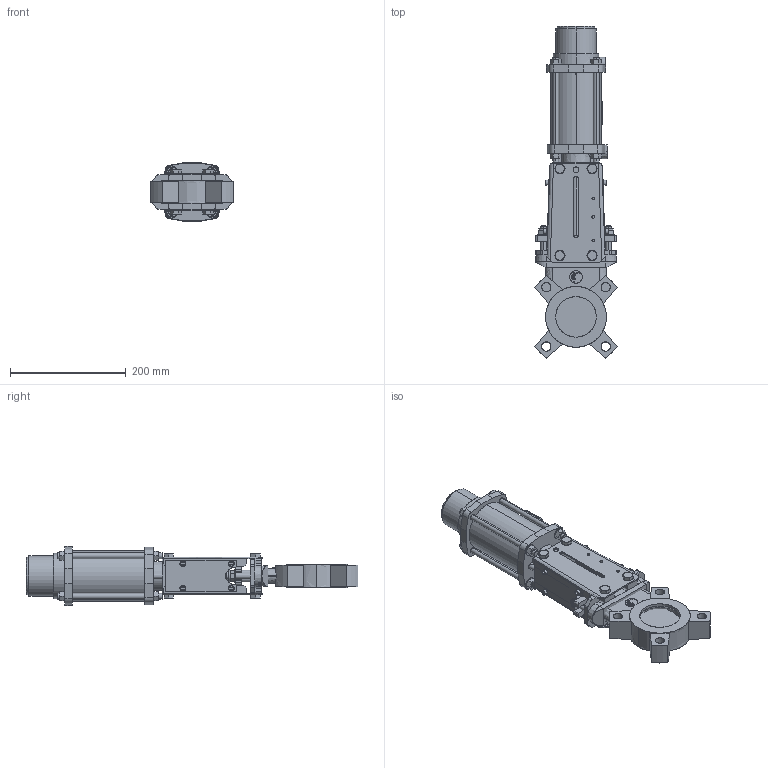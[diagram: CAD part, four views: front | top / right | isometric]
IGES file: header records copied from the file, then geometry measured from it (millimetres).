
Start section: SolidWorks IGES file using analytic representation for surfaces
Global section: file name: D:\part\3D Projects\VG-SINGLE ACTING CYLINDER N (DN50-300)\VG P N DN65\VG P N DN65.IGS; native system: SolidWorks 2009; preprocessor: SolidWorks 2009; author: zhixin.zheng; date: 100331.110604; units: millimetre
Bounding box: 141.95 x 573.47 x 102 mm (x, y, z)
Surface area: 443980.5 mm2 (no closed solid volume)
Topology: 0 solids, 0 shells, 1079 faces, 12719 edges, 12719 vertices
Faces by surface type: bspline 607, revolution 472
